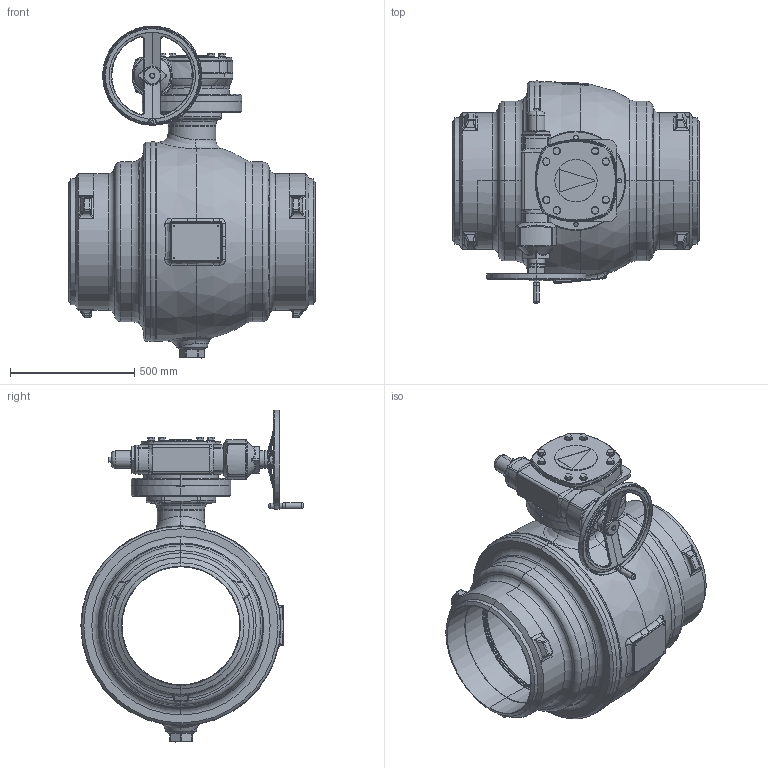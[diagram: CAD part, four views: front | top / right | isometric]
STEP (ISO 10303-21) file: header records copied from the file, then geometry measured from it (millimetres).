
FILE_DESCRIPTION((''),'2;1');
FILE_NAME('ASM0018_ASM','2016-04-29T',('schwaba'),('RAND'),'PRO/ENGINEER BY PARAMETRIC TECHNOLOGY CORPORATION, 2013410','PRO/ENGINEER BY PARAMETRIC TECHNOLOGY CORPORATION, 2013410','');
FILE_SCHEMA(('CONFIG_CONTROL_DESIGN'));
Length unit declared in the file: millimetre
Products named in the file (7): KHISL500VSL500P040MKK_SW0001; PRT0021; PRT0022; PRT0023; ASM0005_ASM_1_ASM; GS160_500_ASM; ASM0018_ASM
Assembly tree (6 placements, depth 4):
  ASM0018_ASM
    KHISL500VSL500P040MKK_SW0001
    GS160_500_ASM
      ASM0005_ASM_1_ASM
        PRT0021
        PRT0022
        PRT0023
Bounding box: 991 x 894.92 x 1337 mm (x, y, z)
Volume: 142060508.4 mm3; surface area: 10120026.8 mm2
Topology: 4 solids, 12 shells, 2456 faces, 6240 edges, 3908 vertices
Faces by surface type: plane 1139, cylinder 518, bspline 279, torus 258, cone 212, sphere 50
Entity records: 154451 total; most frequent: CARTESIAN_POINT 97515, ORIENTED_EDGE 12404, DIRECTION 11358, EDGE_CURVE 6202, AXIS2_PLACEMENT_3D 4708, VERTEX_POINT 3908, EDGE_LOOP 2696, CIRCLE 2514
